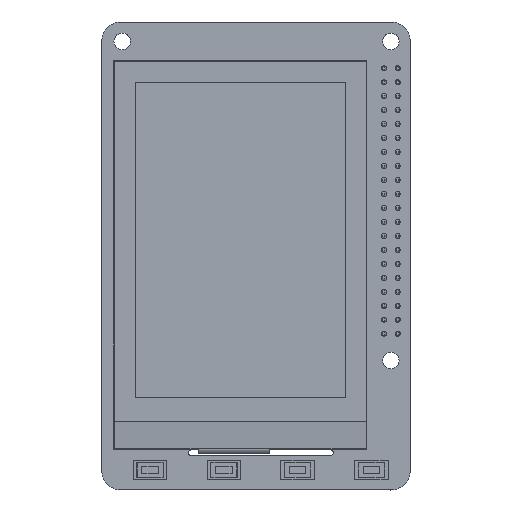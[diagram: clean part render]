
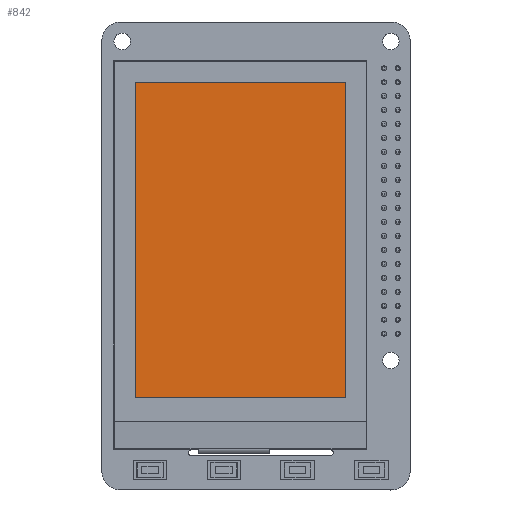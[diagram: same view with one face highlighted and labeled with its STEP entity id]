
A CAD part, top view. The second image highlights one B-rep face of the part: STEP entity #842.
In plain terms, the highlighted planar face has unit normal (0, 0, 1).
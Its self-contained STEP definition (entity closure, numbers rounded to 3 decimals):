
#132=DIRECTION('',(1.,0.,0.));
#133=VECTOR('',#132,38.19);
#134=CARTESIAN_POINT('',(-19.095,28.645,0.975));
#135=LINE('',#134,#133);
#139=DIRECTION('',(0.,1.,0.));
#140=VECTOR('',#139,57.29);
#141=CARTESIAN_POINT('',(19.095,-28.645,0.975));
#142=LINE('',#141,#140);
#146=DIRECTION('',(1.,0.,0.));
#147=VECTOR('',#146,38.19);
#148=CARTESIAN_POINT('',(-19.095,-28.645,0.975));
#149=LINE('',#148,#147);
#153=DIRECTION('',(0.,1.,0.));
#154=VECTOR('',#153,57.29);
#155=CARTESIAN_POINT('',(-19.095,-28.645,0.975));
#156=LINE('',#155,#154);
#663=CARTESIAN_POINT('',(-19.095,28.645,0.975));
#664=CARTESIAN_POINT('',(19.095,28.645,0.975));
#665=VERTEX_POINT('',#663);
#666=VERTEX_POINT('',#664);
#667=CARTESIAN_POINT('',(19.095,-28.645,0.975));
#668=VERTEX_POINT('',#667);
#669=CARTESIAN_POINT('',(-19.095,-28.645,0.975));
#670=VERTEX_POINT('',#669);
#828=CARTESIAN_POINT('',(0.,0.,0.975));
#829=DIRECTION('',(0.,0.,1.));
#830=DIRECTION('',(1.,0.,0.));
#831=AXIS2_PLACEMENT_3D('',#828,#829,#830);
#832=PLANE('',#831);
#833=ORIENTED_EDGE('',*,*,#818,.T.);
#835=ORIENTED_EDGE('',*,*,#834,.F.);
#837=ORIENTED_EDGE('',*,*,#836,.F.);
#839=ORIENTED_EDGE('',*,*,#838,.T.);
#840=EDGE_LOOP('',(#833,#835,#837,#839));
#841=FACE_OUTER_BOUND('',#840,.F.);
#842=ADVANCED_FACE('',(#841),#832,.T.);
#818=EDGE_CURVE('',#665,#666,#135,.T.);
#834=EDGE_CURVE('',#668,#666,#142,.T.);
#836=EDGE_CURVE('',#670,#668,#149,.T.);
#838=EDGE_CURVE('',#670,#665,#156,.T.);
